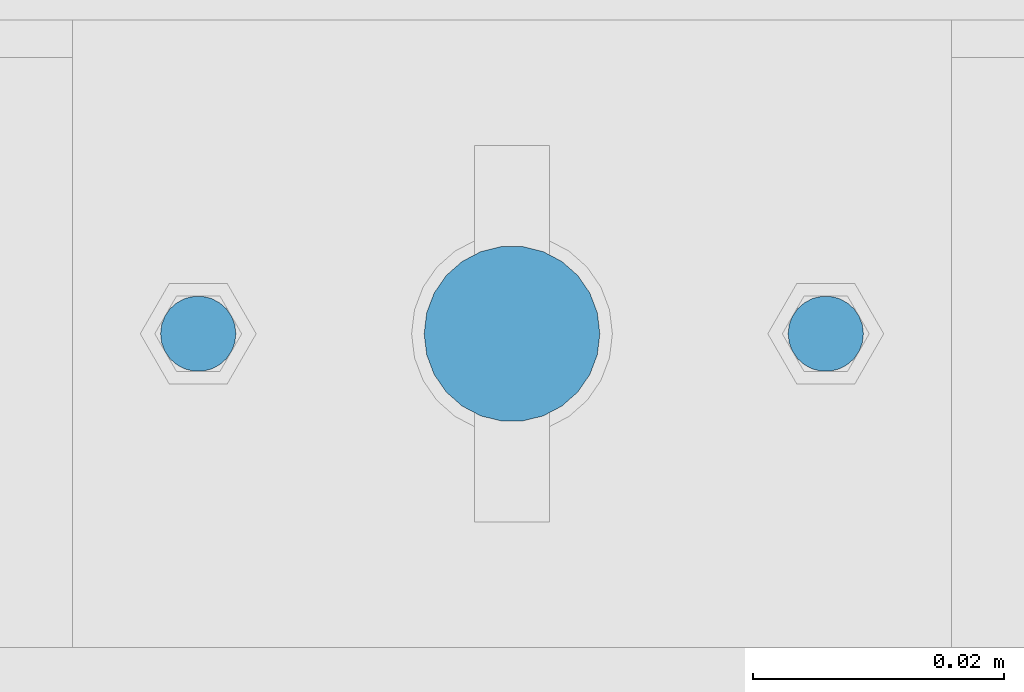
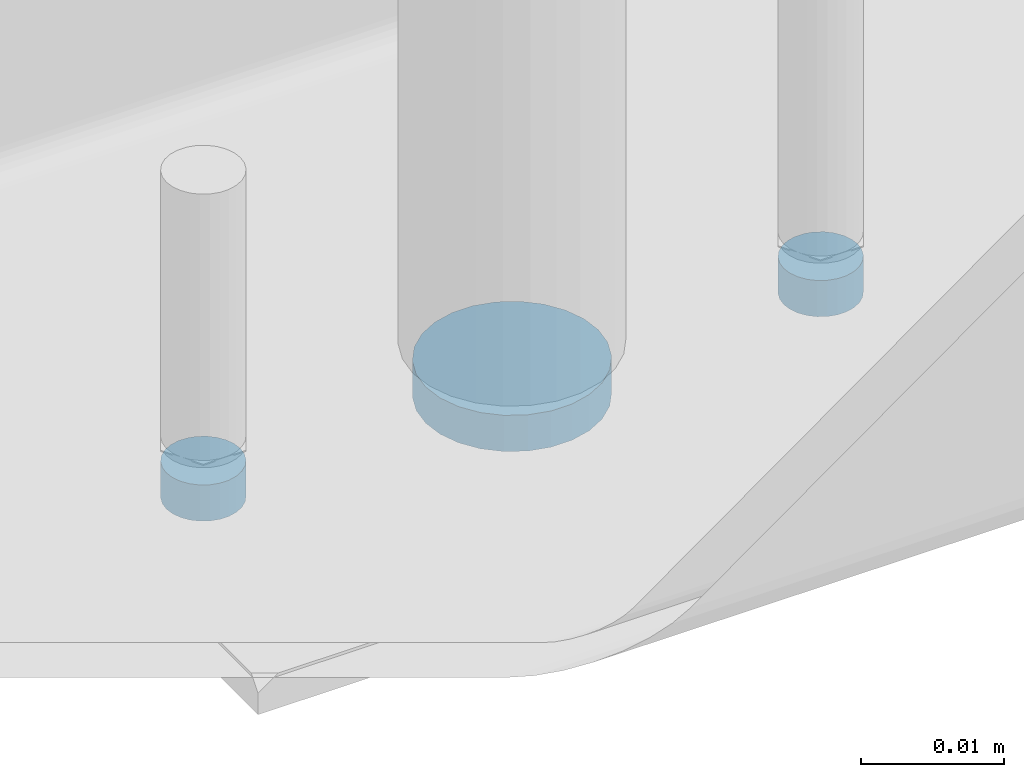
# One storey, part 35 of 91: 3 mechanical fasteners, 1 element without a shape of its own.
"""IFC2X3 building model written with IfcOpenShell, lengths in millimetres."""

from ifc_helpers import new_model, si_unit, frame, origin_with_axes, origin_2d_with_axis, place, context, subcontext, project, spatial, circle, extrude, source, transform, mapped, material, type_object, element, aggregate, save


model = new_model("IFC2X3")

# Units and contexts
model_context = context("Model", 3, precision=1e-05, world=origin_with_axes())
body_context = subcontext(model_context, "Body", "Model", "MODEL_VIEW")
ifc_project = project(units=[si_unit("LENGTHUNIT", "METRE", prefix="MILLI"), si_unit("AREAUNIT", "SQUARE_METRE"), si_unit("VOLUMEUNIT", "CUBIC_METRE"), si_unit("MASSUNIT", "GRAM", prefix="KILO"), si_unit("TIMEUNIT", "SECOND"), si_unit("PLANEANGLEUNIT", "RADIAN"), si_unit("SOLIDANGLEUNIT", "STERADIAN"), si_unit("THERMODYNAMICTEMPERATUREUNIT", "DEGREE_CELSIUS"), si_unit("LUMINOUSINTENSITYUNIT", "LUMEN")], contexts=[model_context])

# Site, building, storey
site_placement = place(None, origin_with_axes())
site = spatial("IfcSite", under=ifc_project, at=site_placement, Name="Undefined", CompositionType="ELEMENT")
building_placement = place(site_placement, origin_with_axes())
building = spatial("IfcBuilding", under=site, at=building_placement, Name="Undefined", CompositionType="ELEMENT")
storey_placement = place(building_placement, origin_with_axes())
storey = spatial("IfcBuildingStorey", under=building, at=storey_placement, Name="Undefined", CompositionType="ELEMENT", Elevation=0.0)

# Assembly, mechanical fasteners
assembly_placement = place(storey_placement, origin_with_axes())
assembly = element("IfcElementAssembly", 1, at=assembly_placement, inside=storey, Name="ROD", AssemblyPlace="NOTDEFINED", PredefinedType="RIGID_FRAME")
ifc_material = material(Name="8.8S")
discrete_accessory_type = type_object("IfcDiscreteAccessoryType", Name="Bolt assembly")
shared_shape_1 = source(origin_with_axes(), body_context, "Body", "SweptSolid", [
    extrude(circle(Radius=3.0, at=origin_2d_with_axis()), frame((0.0, -1.0, 0.0), z_axis=(0.0, 1.0, 0.0), x_axis=(1.0, 0.0, 0.0)), (0.0, 0.0, 1.0), 3.1),
])
mechanical_fastener_1_placement = place(assembly_placement, frame((-116595.84, 87712.15, 3324.0), z_axis=(0.0, 1.0, 0.0), x_axis=(-1.0, 0.0, 0.0)))
mechanical_fastener_1 = element("IfcMechanicalFastener", 2, at=mechanical_fastener_1_placement, type_object=discrete_accessory_type, material=ifc_material, Name="Bolt assembly", NominalDiameter=6.0, NominalLength=3.0, context=body_context, shape_type="MappedRepresentation", body=[
    mapped(shared_shape_1, transform((0.0, 0.0, 0.0))),
])
mechanical_fastener_2_placement = place(assembly_placement, frame((-116645.84, 87712.15, 3324.0), z_axis=(0.0, -1.0, 0.0), x_axis=(1.0, 0.0, 0.0)))
mechanical_fastener_2 = element("IfcMechanicalFastener", 3, at=mechanical_fastener_2_placement, type_object=discrete_accessory_type, material=ifc_material, Name="Bolt assembly", NominalDiameter=6.0, NominalLength=3.0, context=body_context, shape_type="MappedRepresentation", body=[
    mapped(shared_shape_1, transform((0.0, 0.0, 0.0))),
])
shared_shape_2 = source(origin_with_axes(), body_context, "Body", "SweptSolid", [
    extrude(circle(Radius=7.0, at=origin_2d_with_axis()), frame((0.0, -1.0, 0.0), z_axis=(0.0, 1.0, 0.0), x_axis=(1.0, 0.0, 0.0)), (0.0, 0.0, 1.0), 3.1),
])
mechanical_fastener_3_placement = place(assembly_placement, frame((-116620.84, 87712.15, 3324.0), z_axis=(0.0, -1.0, 0.0), x_axis=(1.0, 0.0, 0.0)))
mechanical_fastener_3 = element("IfcMechanicalFastener", 4, at=mechanical_fastener_3_placement, type_object=discrete_accessory_type, material=ifc_material, Name="Bolt assembly", NominalDiameter=12.0, NominalLength=3.0, context=body_context, shape_type="MappedRepresentation", body=[
    mapped(shared_shape_2, transform((0.0, 0.0, 0.0))),
])
aggregate(assembly, [mechanical_fastener_1, mechanical_fastener_2, mechanical_fastener_3])

save(model, "model.ifc")
